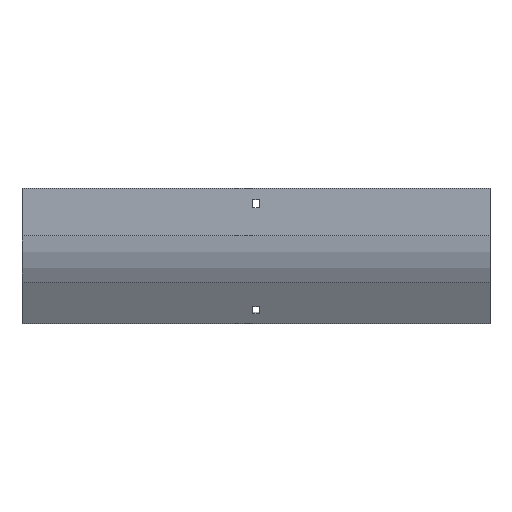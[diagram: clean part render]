
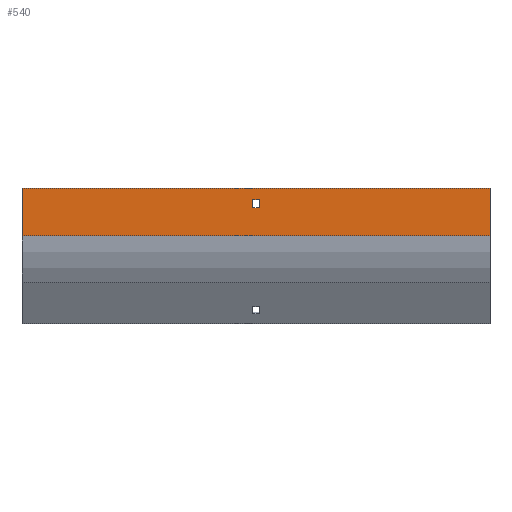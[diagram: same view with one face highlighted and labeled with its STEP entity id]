
A CAD part, front view. The second image highlights one B-rep face of the part: STEP entity #540.
In plain terms, the highlighted planar face has unit normal (0, -1, 0).
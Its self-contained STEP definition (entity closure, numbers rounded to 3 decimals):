
#4 = DIRECTION ( 'NONE',  ( -1., 0., 0. ) ) ;
#24 = CARTESIAN_POINT ( 'NONE',  ( 252., -79., 0. ) ) ;
#57 = FACE_BOUND ( 'NONE', #777, .T. ) ;
#71 = EDGE_CURVE ( 'NONE', #746, #1032, #911, .T. ) ;
#81 = VERTEX_POINT ( 'NONE', #24 ) ;
#102 = ORIENTED_EDGE ( 'NONE', *, *, #1000, .T. ) ;
#142 = LINE ( 'NONE', #1156, #1143 ) ;
#219 = DIRECTION ( 'NONE',  ( -1., 0., 0. ) ) ;
#255 = EDGE_CURVE ( 'NONE', #1187, #370, #1003, .T. ) ;
#281 = VECTOR ( 'NONE', #1622, 1000. ) ;
#298 = LINE ( 'NONE', #1151, #1061 ) ;
#370 = VERTEX_POINT ( 'NONE', #1197 ) ;
#406 = EDGE_CURVE ( 'NONE', #81, #1187, #298, .T. ) ;
#443 = ORIENTED_EDGE ( 'NONE', *, *, #1727, .F. ) ;
#469 = DIRECTION ( 'NONE',  ( 0., 0., 1. ) ) ;
#509 = PLANE ( 'NONE',  #1536 ) ;
#522 = LINE ( 'NONE', #1720, #943 ) ;
#528 = DIRECTION ( 'NONE',  ( 0., 1., 0. ) ) ;
#540 = ADVANCED_FACE ( 'NONE', ( #57, #1426 ), #509, .F. ) ;
#545 = CARTESIAN_POINT ( 'NONE',  ( 252., -79., -51.168 ) ) ;
#735 = ORIENTED_EDGE ( 'NONE', *, *, #1596, .T. ) ;
#746 = VERTEX_POINT ( 'NONE', #1363 ) ;
#753 = VERTEX_POINT ( 'NONE', #1239 ) ;
#758 = ORIENTED_EDGE ( 'NONE', *, *, #255, .T. ) ;
#777 = EDGE_LOOP ( 'NONE', ( #1674, #735, #102, #822 ) ) ;
#822 = ORIENTED_EDGE ( 'NONE', *, *, #1793, .T. ) ;
#844 = DIRECTION ( 'NONE',  ( 1., 0., 0. ) ) ;
#867 = CARTESIAN_POINT ( 'NONE',  ( 252., -79., -51.168 ) ) ;
#880 = VECTOR ( 'NONE', #219, 1000. ) ;
#891 = DIRECTION ( 'NONE',  ( -1., 0., 0. ) ) ;
#911 = LINE ( 'NONE', #1540, #1148 ) ;
#943 = VECTOR ( 'NONE', #1295, 1000. ) ;
#1000 = EDGE_CURVE ( 'NONE', #1181, #753, #142, .T. ) ;
#1003 = LINE ( 'NONE', #1609, #281 ) ;
#1005 = CARTESIAN_POINT ( 'NONE',  ( -3.25, -79., -21. ) ) ;
#1008 = ORIENTED_EDGE ( 'NONE', *, *, #406, .T. ) ;
#1030 = LINE ( 'NONE', #1529, #1045 ) ;
#1032 = VERTEX_POINT ( 'NONE', #1005 ) ;
#1045 = VECTOR ( 'NONE', #469, 1000. ) ;
#1061 = VECTOR ( 'NONE', #891, 1000. ) ;
#1108 = CARTESIAN_POINT ( 'NONE',  ( 252., -79., -51.168 ) ) ;
#1143 = VECTOR ( 'NONE', #844, 1000. ) ;
#1148 = VECTOR ( 'NONE', #4, 1000. ) ;
#1151 = CARTESIAN_POINT ( 'NONE',  ( 252., -79., 0. ) ) ;
#1155 = CARTESIAN_POINT ( 'NONE',  ( 252., -79., -51.168 ) ) ;
#1156 = CARTESIAN_POINT ( 'NONE',  ( -3.25, -79., -12. ) ) ;
#1181 = VERTEX_POINT ( 'NONE', #1267 ) ;
#1187 = VERTEX_POINT ( 'NONE', #1290 ) ;
#1197 = CARTESIAN_POINT ( 'NONE',  ( -252., -79., -51.168 ) ) ;
#1239 = CARTESIAN_POINT ( 'NONE',  ( 3.25, -79., -12. ) ) ;
#1266 = DIRECTION ( 'NONE',  ( 0., 0., 1. ) ) ;
#1267 = CARTESIAN_POINT ( 'NONE',  ( -3.25, -79., -12. ) ) ;
#1290 = CARTESIAN_POINT ( 'NONE',  ( -252., -79., 0. ) ) ;
#1295 = DIRECTION ( 'NONE',  ( 0., 0., -1. ) ) ;
#1363 = CARTESIAN_POINT ( 'NONE',  ( 3.25, -79., -21. ) ) ;
#1426 = FACE_OUTER_BOUND ( 'NONE', #1434, .T. ) ;
#1428 = EDGE_CURVE ( 'NONE', #81, #1825, #1770, .T. ) ;
#1434 = EDGE_LOOP ( 'NONE', ( #758, #443, #1851, #1008 ) ) ;
#1529 = CARTESIAN_POINT ( 'NONE',  ( -3.25, -79., -21. ) ) ;
#1536 = AXIS2_PLACEMENT_3D ( 'NONE', #1108, #528, #1266 ) ;
#1540 = CARTESIAN_POINT ( 'NONE',  ( -3.25, -79., -21. ) ) ;
#1596 = EDGE_CURVE ( 'NONE', #1032, #1181, #1030, .T. ) ;
#1609 = CARTESIAN_POINT ( 'NONE',  ( -252., -79., -51.168 ) ) ;
#1622 = DIRECTION ( 'NONE',  ( 0., 0., -1. ) ) ;
#1674 = ORIENTED_EDGE ( 'NONE', *, *, #71, .T. ) ;
#1720 = CARTESIAN_POINT ( 'NONE',  ( 3.25, -79., -21. ) ) ;
#1727 = EDGE_CURVE ( 'NONE', #1825, #370, #1730, .T. ) ;
#1730 = LINE ( 'NONE', #545, #880 ) ;
#1745 = VECTOR ( 'NONE', #1905, 1000. ) ;
#1770 = LINE ( 'NONE', #1155, #1745 ) ;
#1793 = EDGE_CURVE ( 'NONE', #753, #746, #522, .T. ) ;
#1825 = VERTEX_POINT ( 'NONE', #867 ) ;
#1851 = ORIENTED_EDGE ( 'NONE', *, *, #1428, .F. ) ;
#1905 = DIRECTION ( 'NONE',  ( 0., 0., -1. ) ) ;
